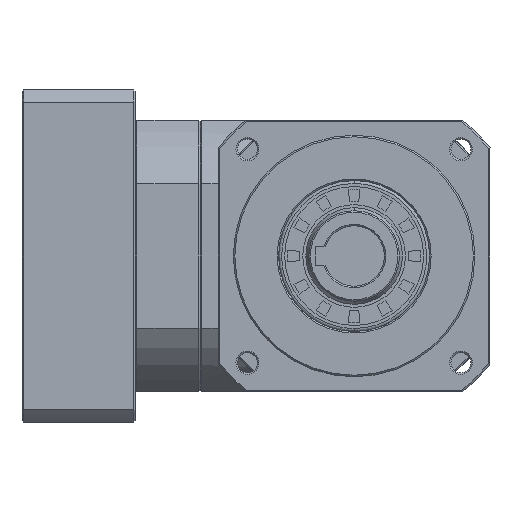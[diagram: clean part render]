
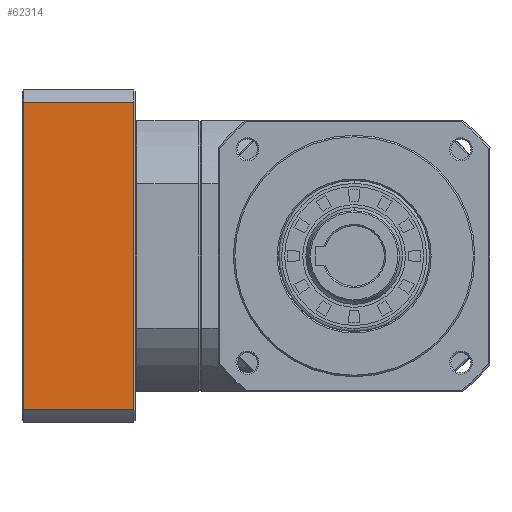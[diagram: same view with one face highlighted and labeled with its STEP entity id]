
A CAD part, left-side view. The second image highlights one B-rep face of the part: STEP entity #62314.
In plain terms, the highlighted planar face has unit normal (-1, 0, 0).
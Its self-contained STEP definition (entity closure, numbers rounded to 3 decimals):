
#476 = CARTESIAN_POINT ( 'NONE',  ( 104., 109.5, -50.99 ) ) ;
#2245 = EDGE_LOOP ( 'NONE', ( #21616, #59321, #21112, #33526 ) ) ;
#5016 = CARTESIAN_POINT ( 'NONE',  ( 104., 73., 0. ) ) ;
#6092 = VECTOR ( 'NONE', #58588, 1000. ) ;
#15273 = VERTEX_POINT ( 'NONE', #29037 ) ;
#17520 = LINE ( 'NONE', #24528, #6092 ) ;
#18289 = DIRECTION ( 'NONE',  ( 0., 0., 1. ) ) ;
#20584 = VECTOR ( 'NONE', #36837, 1000. ) ;
#21112 = ORIENTED_EDGE ( 'NONE', *, *, #41137, .F. ) ;
#21616 = ORIENTED_EDGE ( 'NONE', *, *, #81211, .F. ) ;
#24528 = CARTESIAN_POINT ( 'NONE',  ( 104., 91.25, 50.99 ) ) ;
#25563 = PLANE ( 'NONE',  #77585 ) ;
#26674 = VERTEX_POINT ( 'NONE', #75416 ) ;
#29037 = CARTESIAN_POINT ( 'NONE',  ( 104., 109.5, 50.99 ) ) ;
#33526 = ORIENTED_EDGE ( 'NONE', *, *, #79085, .T. ) ;
#36837 = DIRECTION ( 'NONE',  ( 0., 0., -1. ) ) ;
#41115 = EDGE_CURVE ( 'NONE', #55196, #26674, #80021, .T. ) ;
#41137 = EDGE_CURVE ( 'NONE', #15273, #55196, #17520, .T. ) ;
#49752 = CARTESIAN_POINT ( 'NONE',  ( 104., 91.25, -50.99 ) ) ;
#51605 = DIRECTION ( 'NONE',  ( 0., 0., -1. ) ) ;
#55196 = VERTEX_POINT ( 'NONE', #82328 ) ;
#55638 = VECTOR ( 'NONE', #57313, 1000. ) ;
#57313 = DIRECTION ( 'NONE',  ( 0., 1., 0. ) ) ;
#58460 = DIRECTION ( 'NONE',  ( -1., 0., 0. ) ) ;
#58588 = DIRECTION ( 'NONE',  ( 0., -1., 0. ) ) ;
#59308 = CARTESIAN_POINT ( 'NONE',  ( 104., 73., -50.99 ) ) ;
#59321 = ORIENTED_EDGE ( 'NONE', *, *, #41115, .F. ) ;
#61305 = FACE_OUTER_BOUND ( 'NONE', #2245, .T. ) ;
#61307 = VERTEX_POINT ( 'NONE', #476 ) ;
#62314 = ADVANCED_FACE ( 'NONE', ( #61305 ), #25563, .T. ) ;
#70547 = CARTESIAN_POINT ( 'NONE',  ( 104., 109.5, 0. ) ) ;
#75416 = CARTESIAN_POINT ( 'NONE',  ( 104., 73., -50.99 ) ) ;
#77585 = AXIS2_PLACEMENT_3D ( 'NONE', #59308, #58460, #18289 ) ;
#77947 = VECTOR ( 'NONE', #51605, 1000. ) ;
#79085 = EDGE_CURVE ( 'NONE', #15273, #61307, #80011, .T. ) ;
#80011 = LINE ( 'NONE', #70547, #20584 ) ;
#80021 = LINE ( 'NONE', #5016, #77947 ) ;
#80686 = LINE ( 'NONE', #49752, #55638 ) ;
#81211 = EDGE_CURVE ( 'NONE', #26674, #61307, #80686, .T. ) ;
#82328 = CARTESIAN_POINT ( 'NONE',  ( 104., 73., 50.99 ) ) ;
